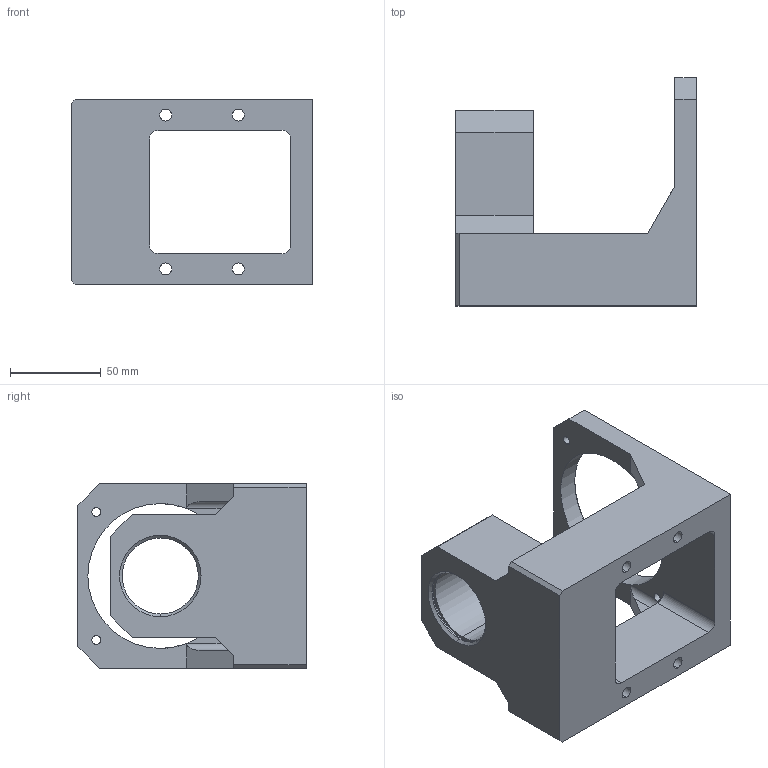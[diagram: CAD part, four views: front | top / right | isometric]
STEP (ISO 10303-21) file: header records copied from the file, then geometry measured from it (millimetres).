
FILE_DESCRIPTION (( 'STEP AP214' ), '1' );
FILE_NAME ('AGZ061.06.04_V1电机轴承座.STEP', '2021-09-24T03:08:40', ( '微软中国' ), ( 'Microsoft' ), 'SwSTEP 2.0', 'SolidWorks 2017', '' );
FILE_SCHEMA (( 'AUTOMOTIVE_DESIGN' ));
Length unit declared in the file: millimetre
Products named in the file (1): AGZ061.06.04_V1萇儂粣創釱
Bounding box: 133 x 126 x 102 mm (x, y, z)
Volume: 508585.1 mm3; surface area: 80072.9 mm2
Topology: 1 solids, 1 shells, 70 faces, 200 edges, 132 vertices
Faces by surface type: cylinder 34, plane 32, cone 4
Entity records: 2500 total; most frequent: CARTESIAN_POINT 457, DIRECTION 404, ORIENTED_EDGE 400, EDGE_CURVE 200, AXIS2_PLACEMENT_3D 143, VERTEX_POINT 132, LINE 118, VECTOR 118
